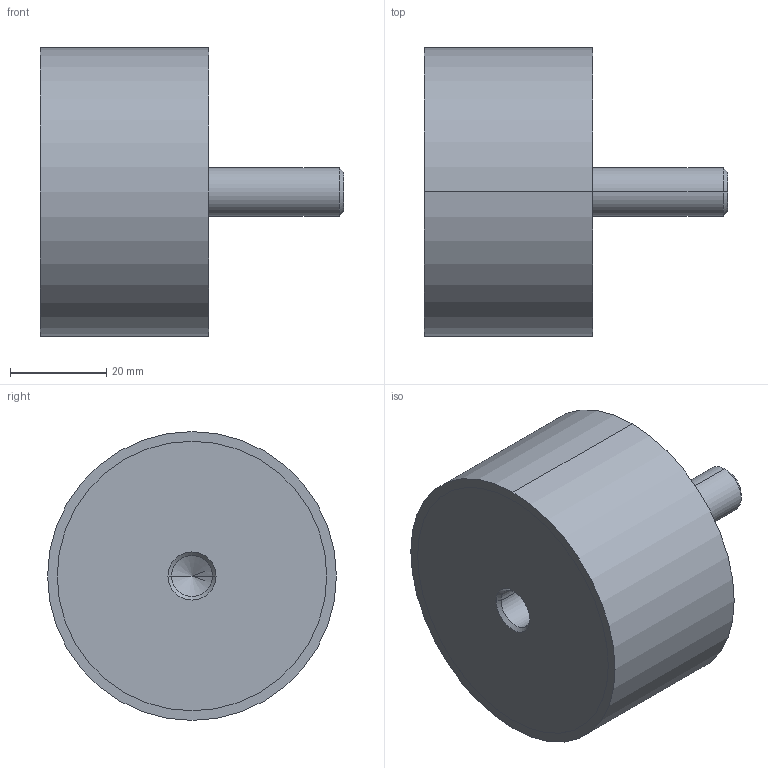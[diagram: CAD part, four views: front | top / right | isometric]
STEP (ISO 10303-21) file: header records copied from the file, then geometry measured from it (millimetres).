
FILE_DESCRIPTION (( 'STEP AP214' ), '1' );
FILE_NAME ('351-60-35-M10-ES-55.step', '2025-07-23T09:51:11', ( '' ), ( '' ), 'SwSTEP 2.0', 'SolidWorks 2022', '' );
FILE_SCHEMA (( 'AUTOMOTIVE_DESIGN' ));
Length unit declared in the file: millimetre
Products named in the file (1): 351-60-35-M10-ES-55
Bounding box: 63 x 60 x 60 mm (x, y, z)
Volume: 100410.3 mm3; surface area: 13413.1 mm2
Topology: 1 solids, 1 shells, 24 faces, 48 edges, 29 vertices
Faces by surface type: cylinder 12, cone 6, plane 6
Entity records: 740 total; most frequent: DIRECTION 124, CARTESIAN_POINT 100, ORIENTED_EDGE 92, AXIS2_PLACEMENT_3D 53, EDGE_CURVE 46, VERTEX_POINT 29, EDGE_LOOP 29, CIRCLE 28
